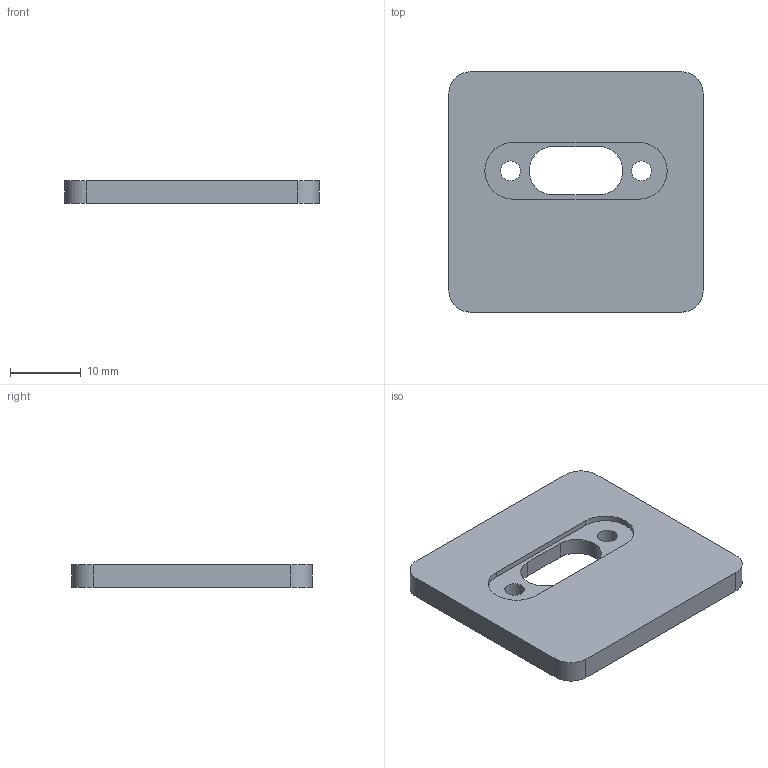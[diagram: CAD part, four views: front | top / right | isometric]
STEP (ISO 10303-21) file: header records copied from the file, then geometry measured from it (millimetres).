
FILE_DESCRIPTION(('Open CASCADE Model'),'2;1');
FILE_NAME('Open CASCADE Shape Model','2026-07-23T15:55:57',('Author'),( 'Open CASCADE'),'Open CASCADE STEP processor 7.9','Open CASCADE 7.9' ,'Unknown');
FILE_SCHEMA(('AUTOMOTIVE_DESIGN { 1 0 10303 214 1 1 1 1 }'));
Length unit declared in the file: millimetre
Products named in the file (1): Open CASCADE STEP translator 7.9 6
Bounding box: 36 x 34 x 3.2 mm (x, y, z)
Volume: 3513.5 mm3; surface area: 2851 mm2
Topology: 1 solids, 1 shells, 29 faces, 78 edges, 52 vertices
Faces by surface type: plane 15, cylinder 14
Full cylindrical faces by diameter (mm): 2.8 x2
Entity records: 1996 total; most frequent: CARTESIAN_POINT 456, DIRECTION 282, LINE 158, VECTOR 158, ORIENTED_EDGE 156, PCURVE 156, DEFINITIONAL_REPRESENTATION 156, EDGE_CURVE 78
